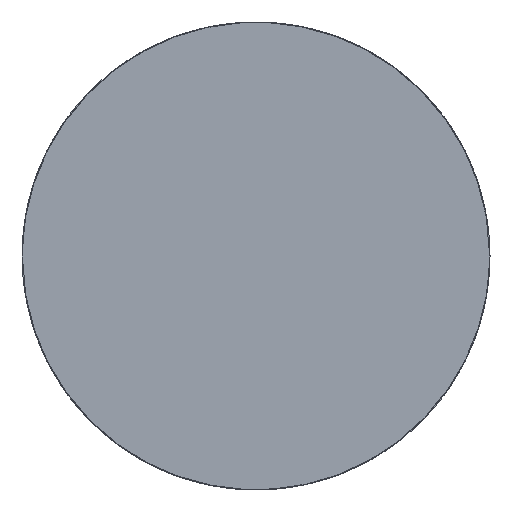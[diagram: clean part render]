
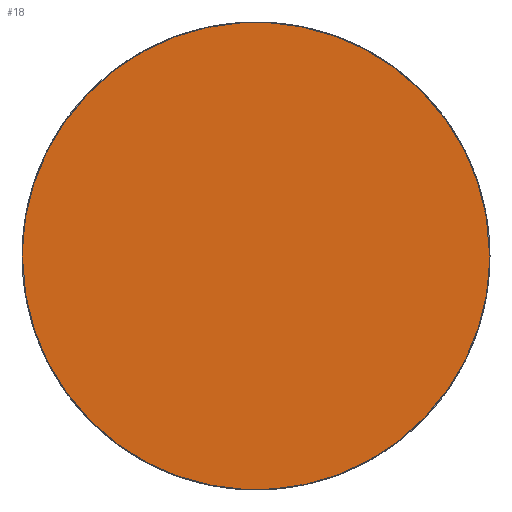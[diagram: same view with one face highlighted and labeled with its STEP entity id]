
A CAD part, top view. The second image highlights one B-rep face of the part: STEP entity #18.
In plain terms, the highlighted free-form (B-spline) face has degree [1, 1] with [2, 2] control points.
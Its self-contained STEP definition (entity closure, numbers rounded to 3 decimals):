
#18=ADVANCED_FACE('',(#96),#2793,.T.);
#96=FACE_OUTER_BOUND('',#174,.T.);
#174=EDGE_LOOP('',(#256,#257));
#256=ORIENTED_EDGE('',*,*,#2370,.T.);
#257=ORIENTED_EDGE('',*,*,#2371,.T.);
#692=PCURVE('',#2793,#1128);
#693=PCURVE('',#2793,#1129);
#699=PCURVE('',#2850,#1135);
#712=PCURVE('',#2853,#1148);
#1128=DEFINITIONAL_REPRESENTATION('',(#2591),#5793);
#1129=DEFINITIONAL_REPRESENTATION('',(#2593),#5793);
#1135=DEFINITIONAL_REPRESENTATION('',(#1567),#5793);
#1148=DEFINITIONAL_REPRESENTATION('',(#1580),#5793);
#1567=B_SPLINE_CURVE_WITH_KNOTS('',1,(#3141,#3142),.UNSPECIFIED.,.F.,.F.,
(2,2),(0.,1881.813),.UNSPECIFIED.);
#1580=B_SPLINE_CURVE_WITH_KNOTS('',1,(#3180,#3181),.UNSPECIFIED.,.F.,.F.,
(2,2),(1881.813,3763.627),.UNSPECIFIED.);
#2152=SURFACE_CURVE('',#2590,(#692,#699),.PCURVE_S1.);
#2153=SURFACE_CURVE('',#2592,(#693,#712),.PCURVE_S1.);
#2370=EDGE_CURVE('',#2651,#2655,#2152,.T.);
#2371=EDGE_CURVE('',#2655,#2651,#2153,.T.);
#2590=(
BOUNDED_CURVE()
B_SPLINE_CURVE(2,(#3102,#3103,#3104,#3105,#3106),.UNSPECIFIED.,.F.,.F.)
B_SPLINE_CURVE_WITH_KNOTS((3,2,3),(0.,940.907,1881.813),
 .UNSPECIFIED.)
CURVE()
GEOMETRIC_REPRESENTATION_ITEM()
RATIONAL_B_SPLINE_CURVE((1.,0.707,1.,0.707,1.))
REPRESENTATION_ITEM('')
);
#2591=(
BOUNDED_CURVE()
B_SPLINE_CURVE(2,(#3107,#3108,#3109,#3110,#3111),.UNSPECIFIED.,.F.,.F.)
B_SPLINE_CURVE_WITH_KNOTS((3,2,3),(0.,940.907,1881.813),
 .UNSPECIFIED.)
CURVE()
GEOMETRIC_REPRESENTATION_ITEM()
RATIONAL_B_SPLINE_CURVE((1.,0.707,1.,0.707,1.))
REPRESENTATION_ITEM('')
);
#2592=(
BOUNDED_CURVE()
B_SPLINE_CURVE(2,(#3112,#3113,#3114,#3115,#3116),.UNSPECIFIED.,.F.,.F.)
B_SPLINE_CURVE_WITH_KNOTS((3,2,3),(1881.813,2822.72,3763.627),
 .UNSPECIFIED.)
CURVE()
GEOMETRIC_REPRESENTATION_ITEM()
RATIONAL_B_SPLINE_CURVE((1.,0.707,1.,0.707,1.))
REPRESENTATION_ITEM('')
);
#2593=(
BOUNDED_CURVE()
B_SPLINE_CURVE(2,(#3117,#3118,#3119,#3120,#3121),.UNSPECIFIED.,.F.,.F.)
B_SPLINE_CURVE_WITH_KNOTS((3,2,3),(1881.813,2822.72,3763.627),
 .UNSPECIFIED.)
CURVE()
GEOMETRIC_REPRESENTATION_ITEM()
RATIONAL_B_SPLINE_CURVE((1.,0.707,1.,0.707,1.))
REPRESENTATION_ITEM('')
);
#2651=VERTEX_POINT('',#3055);
#2655=VERTEX_POINT('',#3059);
#2793=B_SPLINE_SURFACE_WITH_KNOTS('',1,1,((#2978,#2979),(#2980,#2981)),
 .UNSPECIFIED.,.F.,.F.,.F.,(2,2),(2,2),(-750.,750.),(-750.,750.),
 .UNSPECIFIED.);
#2850=(
BOUNDED_SURFACE()
B_SPLINE_SURFACE(2,2,((#2997,#2998,#2999),(#3000,#3001,#3002),(#3003,#3004,
#3005),(#3006,#3007,#3008),(#3009,#3010,#3011)),.UNSPECIFIED.,.F.,.F.,.F.)
B_SPLINE_SURFACE_WITH_KNOTS((3,2,3),(3,3),(0.,940.907,1881.813),
(0.,1.571),.UNSPECIFIED.)
GEOMETRIC_REPRESENTATION_ITEM()
RATIONAL_B_SPLINE_SURFACE(((1.,0.707,1.),(0.707,
0.5,0.707),(1.,0.707,1.),(0.707,
0.5,0.707),(1.,0.707,1.)))
REPRESENTATION_ITEM('')
SURFACE()
);
#2853=(
BOUNDED_SURFACE()
B_SPLINE_SURFACE(2,2,((#3037,#3038,#3039),(#3040,#3041,#3042),(#3043,#3044,
#3045),(#3046,#3047,#3048),(#3049,#3050,#3051)),.UNSPECIFIED.,.F.,.F.,.F.)
B_SPLINE_SURFACE_WITH_KNOTS((3,2,3),(3,3),(1881.813,2822.72,
3763.627),(0.,1.571),.UNSPECIFIED.)
GEOMETRIC_REPRESENTATION_ITEM()
RATIONAL_B_SPLINE_SURFACE(((1.,0.707,1.),(0.707,
0.5,0.707),(1.,0.707,1.),(0.707,
0.5,0.707),(1.,0.707,1.)))
REPRESENTATION_ITEM('')
SURFACE()
);
#2978=CARTESIAN_POINT('',(16866.024,-15338.18,666.097));
#2979=CARTESIAN_POINT('',(16866.024,-13838.18,666.097));
#2980=CARTESIAN_POINT('',(18366.024,-15338.18,666.097));
#2981=CARTESIAN_POINT('',(18366.024,-13838.18,666.097));
#2997=CARTESIAN_POINT('',(18216.024,-14588.18,665.097));
#2998=CARTESIAN_POINT('',(18216.024,-14588.18,666.097));
#2999=CARTESIAN_POINT('',(18215.024,-14588.18,666.097));
#3000=CARTESIAN_POINT('',(18216.024,-13988.18,665.097));
#3001=CARTESIAN_POINT('',(18216.024,-13988.18,666.097));
#3002=CARTESIAN_POINT('',(18215.024,-13989.18,666.097));
#3003=CARTESIAN_POINT('',(17616.024,-13988.18,665.097));
#3004=CARTESIAN_POINT('',(17616.024,-13988.18,666.097));
#3005=CARTESIAN_POINT('',(17616.024,-13989.18,666.097));
#3006=CARTESIAN_POINT('',(17016.024,-13988.18,665.097));
#3007=CARTESIAN_POINT('',(17016.024,-13988.18,666.097));
#3008=CARTESIAN_POINT('',(17017.024,-13989.18,666.097));
#3009=CARTESIAN_POINT('',(17016.024,-14588.18,665.097));
#3010=CARTESIAN_POINT('',(17016.024,-14588.18,666.097));
#3011=CARTESIAN_POINT('',(17017.024,-14588.18,666.097));
#3037=CARTESIAN_POINT('',(17016.024,-14588.18,665.097));
#3038=CARTESIAN_POINT('',(17016.024,-14588.18,666.097));
#3039=CARTESIAN_POINT('',(17017.024,-14588.18,666.097));
#3040=CARTESIAN_POINT('',(17016.024,-15188.18,665.097));
#3041=CARTESIAN_POINT('',(17016.024,-15188.18,666.097));
#3042=CARTESIAN_POINT('',(17017.024,-15187.18,666.097));
#3043=CARTESIAN_POINT('',(17616.024,-15188.18,665.097));
#3044=CARTESIAN_POINT('',(17616.024,-15188.18,666.097));
#3045=CARTESIAN_POINT('',(17616.024,-15187.18,666.097));
#3046=CARTESIAN_POINT('',(18216.024,-15188.18,665.097));
#3047=CARTESIAN_POINT('',(18216.024,-15188.18,666.097));
#3048=CARTESIAN_POINT('',(18215.024,-15187.18,666.097));
#3049=CARTESIAN_POINT('',(18216.024,-14588.18,665.097));
#3050=CARTESIAN_POINT('',(18216.024,-14588.18,666.097));
#3051=CARTESIAN_POINT('',(18215.024,-14588.18,666.097));
#3055=CARTESIAN_POINT('',(18215.024,-14588.18,666.097));
#3059=CARTESIAN_POINT('',(17017.024,-14588.18,666.097));
#3102=CARTESIAN_POINT('',(18215.024,-14588.18,666.097));
#3103=CARTESIAN_POINT('',(18215.024,-13989.18,666.097));
#3104=CARTESIAN_POINT('',(17616.024,-13989.18,666.097));
#3105=CARTESIAN_POINT('',(17017.024,-13989.18,666.097));
#3106=CARTESIAN_POINT('',(17017.024,-14588.18,666.097));
#3107=CARTESIAN_POINT('',(599.,0.));
#3108=CARTESIAN_POINT('',(599.,599.));
#3109=CARTESIAN_POINT('',(0.,599.));
#3110=CARTESIAN_POINT('',(-599.,599.));
#3111=CARTESIAN_POINT('',(-599.,0.));
#3112=CARTESIAN_POINT('',(17017.024,-14588.18,666.097));
#3113=CARTESIAN_POINT('',(17017.024,-15187.18,666.097));
#3114=CARTESIAN_POINT('',(17616.024,-15187.18,666.097));
#3115=CARTESIAN_POINT('',(18215.024,-15187.18,666.097));
#3116=CARTESIAN_POINT('',(18215.024,-14588.18,666.097));
#3117=CARTESIAN_POINT('',(-599.,0.));
#3118=CARTESIAN_POINT('',(-599.,-599.));
#3119=CARTESIAN_POINT('',(0.,-599.));
#3120=CARTESIAN_POINT('',(599.,-599.));
#3121=CARTESIAN_POINT('',(599.,0.));
#3141=CARTESIAN_POINT('',(0.,1.571));
#3142=CARTESIAN_POINT('',(1881.813,1.571));
#3180=CARTESIAN_POINT('',(1881.813,1.571));
#3181=CARTESIAN_POINT('',(3763.627,1.571));
#5793=(
GEOMETRIC_REPRESENTATION_CONTEXT(2)
PARAMETRIC_REPRESENTATION_CONTEXT()
REPRESENTATION_CONTEXT('pspace','')
);
